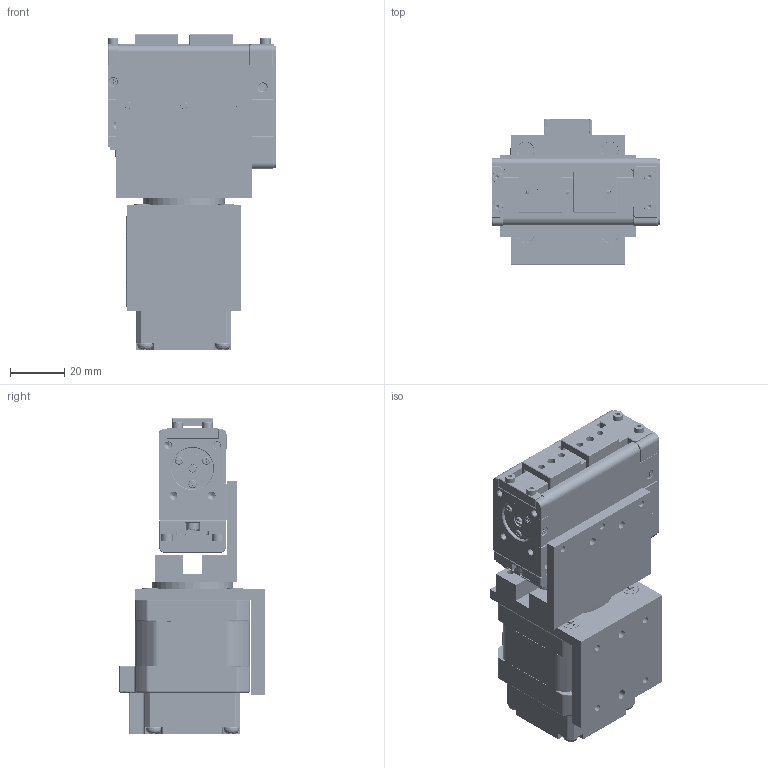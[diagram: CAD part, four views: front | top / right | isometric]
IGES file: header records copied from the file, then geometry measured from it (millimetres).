
Start section: SolidWorks IGES file using analytic representation for surfaces
Global section: file name: C:\Users\KH1\Desktop\3KH05009-00(RGS42T-S0402-14DHD).IGS; native system: SolidWorks 2023; preprocessor: SolidWorks 2023; author: KH1; date: 230810.151538; units: millimetre
Bounding box: 62 x 53.4 x 116.05 mm (x, y, z)
Surface area: 120499.1 mm2 (no closed solid volume)
Topology: 0 solids, 0 shells, 6490 faces, 66684 edges, 66320 vertices
Faces by surface type: bspline 3509, revolution 2981
